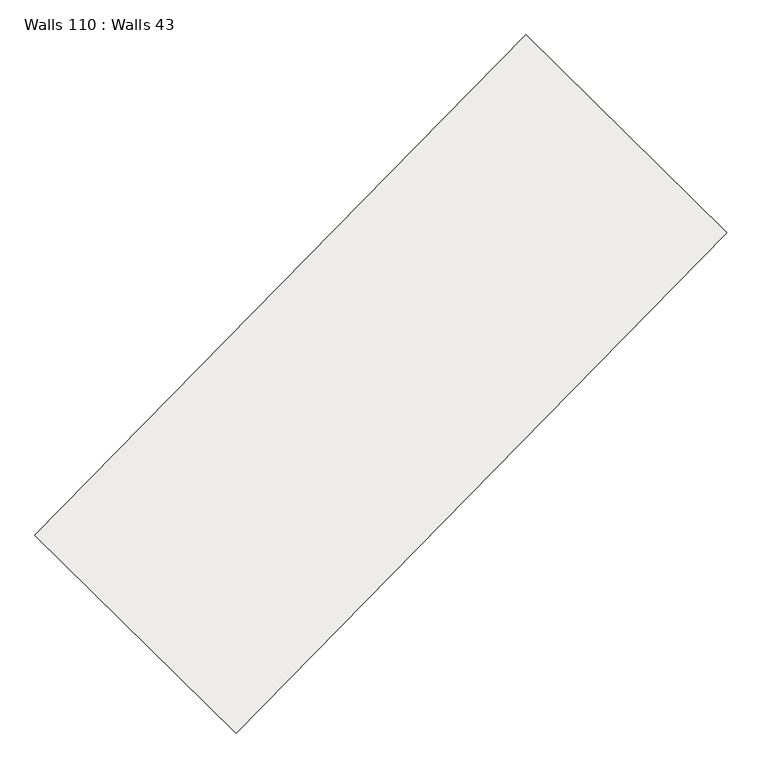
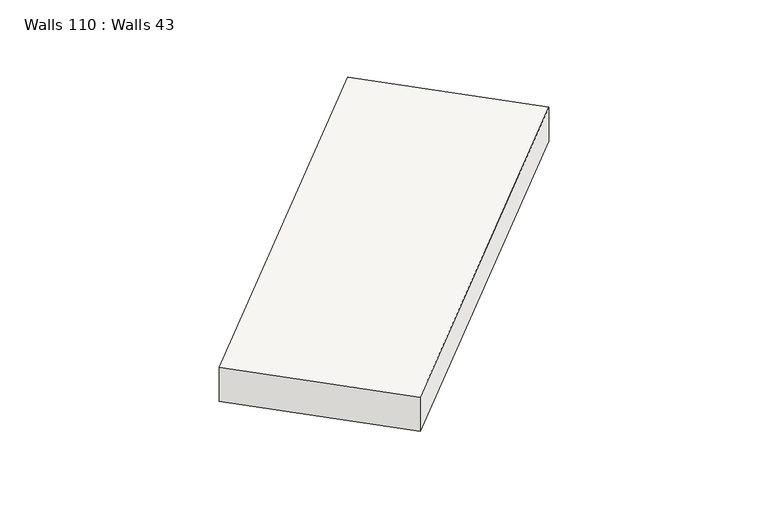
"""IFC4 building model written with IfcOpenShell, lengths in millimetres: slab geometry, Walls 110 : Walls 43."""

import ifcopenshell
import ifcopenshell.guid

model = None  # the IFC model being written
_history = None  # IfcOwnerHistory: only IFC2X3 demands one
_inside = {}  # id of a spatial element -> (the spatial element, [elements in it])
_under = {}  # id of a project, library or spatial element -> (it, [spatial elements below it])
_declared = {}  # id of a project -> (the project, [libraries it declares])
_typed = {}  # id of a type object -> (the type object, [elements of that type])
_made_of = {}  # id of a material, layer set ... -> (it, [elements and type objects made of it])


def new_model(schema):
    """Start an empty IFC model of exactly this schema.

    Asked for "IFC4X3", IfcOpenShell would pick the latest addendum, in which some entities
    have other attributes; the version numbers below select the first issue.
    IFC2X3 requires an IfcOwnerHistory on every rooted entity: one is made here for all.
    """
    global model, _history
    if schema == "IFC4X3":
        model = ifcopenshell.file(schema_version=(4, 3, 0, 0))
    else:
        model = ifcopenshell.file(schema=schema)
    _inside.clear()
    _under.clear()
    _declared.clear()
    _typed.clear()
    _made_of.clear()
    _history = None
    if model.schema == "IFC2X3":
        org = make("IfcOrganization", Name="unknown")
        user = make(
            "IfcPersonAndOrganization",
            ThePerson=make("IfcPerson", FamilyName="unknown"),
            TheOrganization=org,
        )
        app = make(
            "IfcApplication",
            ApplicationDeveloper=org,
            Version="unknown",
            ApplicationFullName="unknown",
            ApplicationIdentifier="unknown",
        )
        _history = make(
            "IfcOwnerHistory",
            OwningUser=user,
            OwningApplication=app,
            ChangeAction="ADDED",
            CreationDate=0,
        )
    return model


def make(cls, **values):
    """One entity of the class cls with the attributes given. An attribute that is None is left unset."""
    return model.create_entity(
        cls, **{name: value for name, value in values.items() if value is not None}
    )


def rooted(cls, **values):
    """An entity with a GlobalId (a new one), such as an element, a storey or a relation."""
    return make(cls, GlobalId=ifcopenshell.guid.new(), OwnerHistory=_history, **values)


def si_unit(unit_type, name, prefix=None):
    """IfcSIUnit, for example si_unit("LENGTHUNIT", "METRE", prefix="MILLI")."""
    return make("IfcSIUnit", UnitType=unit_type, Prefix=prefix, Name=name)


def assignment(units):
    """IfcUnitAssignment: the units of a project."""
    return None if units is None else make("IfcUnitAssignment", Units=units)


def point(xyz):
    """IfcCartesianPoint."""
    return None if xyz is None else make("IfcCartesianPoint", Coordinates=xyz)


def direction(xyz):
    """IfcDirection."""
    return None if xyz is None else make("IfcDirection", DirectionRatios=xyz)


def frame(location, z_axis=None, x_axis=None):
    """IfcAxis2Placement3D, a coordinate frame: its origin and axes. An axis left out is left unset."""
    return make(
        "IfcAxis2Placement3D",
        Location=point(location),
        Axis=direction(z_axis),
        RefDirection=direction(x_axis),
    )


def origin():
    """The frame at (0, 0, 0) with its axes left unset."""
    return frame((0.0, 0.0, 0.0))


def place(relative_to, where):
    """IfcLocalPlacement: puts the frame where relative to a parent placement (None: the world)."""
    return make(
        "IfcLocalPlacement", PlacementRelTo=relative_to, RelativePlacement=where
    )


def context(
    kind, dimensions, precision=None, world=None, true_north=None, identifier=None
):
    """IfcGeometricRepresentationContext, for example the 3D "Model" context."""
    return make(
        "IfcGeometricRepresentationContext",
        ContextIdentifier=identifier,
        ContextType=kind,
        CoordinateSpaceDimension=dimensions,
        Precision=precision,
        WorldCoordinateSystem=world,
        TrueNorth=true_north,
    )


def project(units=None, contexts=None):
    """IfcProject with its units and contexts."""
    return rooted(
        "IfcProject",
        Name="project",
        RepresentationContexts=contexts,
        UnitsInContext=assignment(units),
    )


def spatial(cls, under=None, at=None, **own):
    """A site, building, storey or space (cls), placed at a placement, below another one or the project."""
    s = rooted(cls, ObjectPlacement=at, **own)
    if under is not None:
        _under.setdefault(under.id(), (under, []))[1].append(s)
    return s


def polyline(points):
    """IfcPolyline through the points."""
    return make("IfcPolyline", Points=[point(p) for p in points])


def outline(outer, holes=None, kind="AREA"):
    """IfcArbitraryClosedProfileDef: a profile drawn as a closed curve; with holes, ...WithVoids."""
    if holes is None:
        return make("IfcArbitraryClosedProfileDef", ProfileType=kind, OuterCurve=outer)
    return make(
        "IfcArbitraryProfileDefWithVoids",
        ProfileType=kind,
        OuterCurve=outer,
        InnerCurves=holes,
    )


def extrude(swept, where, along, depth):
    """IfcExtrudedAreaSolid: the profile swept, set in the frame where, extruded along a direction by depth."""
    return make(
        "IfcExtrudedAreaSolid",
        SweptArea=swept,
        Position=where,
        ExtrudedDirection=direction(along),
        Depth=depth,
    )


def shape(context_of_items, identifier, shape_type, items):
    """IfcShapeRepresentation: the items that make up one representation, for example the "Body"."""
    return make(
        "IfcShapeRepresentation",
        ContextOfItems=context_of_items,
        RepresentationIdentifier=identifier,
        RepresentationType=shape_type,
        Items=items,
    )


def source(mapping_origin, context_of_items, identifier, shape_type, items):
    """IfcRepresentationMap: a shape defined once, which mapped items show again and again."""
    return make(
        "IfcRepresentationMap",
        MappingOrigin=mapping_origin,
        MappedRepresentation=shape(context_of_items, identifier, shape_type, items),
    )


def transform(
    local_origin,
    x_axis=None,
    y_axis=None,
    z_axis=None,
    scale=None,
    scale2=None,
    scale3=None,
    uniform=True,
):
    """IfcCartesianTransformationOperator3D, or its non-uniform kind. x_axis, y_axis, z_axis: its Axis1, 2, 3."""
    if uniform:
        return make(
            "IfcCartesianTransformationOperator3D",
            Axis1=direction(x_axis),
            Axis2=direction(y_axis),
            LocalOrigin=point(local_origin),
            Scale=scale,
            Axis3=direction(z_axis),
        )
    return make(
        "IfcCartesianTransformationOperator3DnonUniform",
        Axis1=direction(x_axis),
        Axis2=direction(y_axis),
        LocalOrigin=point(local_origin),
        Scale=scale,
        Axis3=direction(z_axis),
        Scale2=scale2,
        Scale3=scale3,
    )


def mapped(mapping_source, mapping_target):
    """IfcMappedItem: shows the shape of a source again, moved by a transform."""
    return make(
        "IfcMappedItem", MappingSource=mapping_source, MappingTarget=mapping_target
    )


def made_of(thing, what):
    """Note that an element or type object is made of a material, layer set ...; save() writes the relation."""
    if what is not None:
        _made_of.setdefault(what.id(), (what, []))[1].append(thing)
    return thing


def element(
    cls,
    number,
    at=None,
    inside=None,
    cuts=None,
    type_object=None,
    material=None,
    context=None,
    identifier="Body",
    shape_type=None,
    held_by="IfcProductDefinitionShape",
    body=None,
    shapes=None,
    **own,
):
    """One element of the class cls, such as IfcWall. Its Tag is "e" and its number.

    at: its placement. inside: the storey or other place that contains it. cuts: it is an
    opening in that element (IfcRelVoidsElement). A single representation is given by context,
    identifier, shape_type and body (its items); several are given by shapes. held_by: the class
    of the entity that holds the representations. save() writes the other relations.
    """
    e = rooted(cls, Tag="e%d" % number, ObjectPlacement=at, **own)
    if body is not None:
        shapes = [shape(context, identifier, shape_type, body)]
    if shapes is not None:
        e.Representation = make(held_by, Representations=shapes)
    if inside is not None:
        _inside.setdefault(inside.id(), (inside, []))[1].append(e)
    if cuts is not None:
        rooted(
            "IfcRelVoidsElement", RelatingBuildingElement=cuts, RelatedOpeningElement=e
        )
    if type_object is not None:
        _typed.setdefault(type_object.id(), (type_object, []))[1].append(e)
    return made_of(e, material)


def aggregate(whole, parts):
    """IfcRelAggregates: a whole, such as a stair, and the parts it consists of."""
    return rooted("IfcRelAggregates", RelatingObject=whole, RelatedObjects=parts)


def save(model, path):
    """Write the relations noted so far, then the file.

    IfcRelAggregates (storeys below a building ...), IfcRelContainedInSpatialStructure (elements
    in a storey), IfcRelDefinesByType, IfcRelAssociatesMaterial and IfcRelDeclares: one each for
    every whole, place, type object, material and project.
    """
    for whole, parts in _under.values():
        aggregate(whole, parts)
    for where, things in _inside.values():
        rooted(
            "IfcRelContainedInSpatialStructure",
            RelatedElements=things,
            RelatingStructure=where,
        )
    for kind, things in _typed.values():
        rooted("IfcRelDefinesByType", RelatedObjects=things, RelatingType=kind)
    for what, things in _made_of.values():
        rooted("IfcRelAssociatesMaterial", RelatedObjects=things, RelatingMaterial=what)
    for by, libraries in _declared.values():
        rooted("IfcRelDeclares", RelatingContext=by, RelatedDefinitions=libraries)
    model.write(path)


def walls_110_walls_43_1565af72(model_context):
    return source(origin(), model_context, "Body", "SweptSolid", [
        extrude(outline(polyline([(-350.0, 0.0), (350.0, 0.0), (270.0, -8699.9999996), (-430.0, -8699.9999996), (-350.0, 0.0)])), frame((-121893.7163423, -283414.2005439, 636670.0), z_axis=(-0.7137361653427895, 0.7004146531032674, 0.0), x_axis=(0.0, 0.0, 1.0)), (0.0, 0.0, 1.0), 3499.999995),
    ])


if __name__ == "__main__":
    model = new_model("IFC4")
    model_context = context("Model", 3, world=origin())
    ifc_project = project(units=[si_unit("LENGTHUNIT", "METRE", prefix="MILLI")], contexts=[model_context])
    site = spatial("IfcSite", under=ifc_project)
    building = spatial("IfcBuilding", under=site)
    placement = place(None, origin())
    walls_110_walls_43_shape = walls_110_walls_43_1565af72(model_context)
    element("IfcSlab", 1, ObjectType="Walls 110 : Walls 43", at=placement, inside=building, context=model_context, shape_type="MappedRepresentation", body=[
        mapped(walls_110_walls_43_shape, transform((0.0, 0.0, 0.0), x_axis=(1.0, 0.0, 0.0), y_axis=(0.0, 1.0, 0.0), z_axis=(0.0, 0.0, 1.0))),
    ])
    save(model, "model.ifc")
